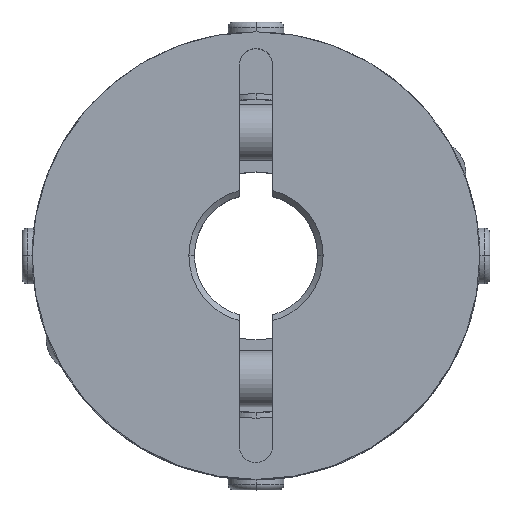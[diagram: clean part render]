
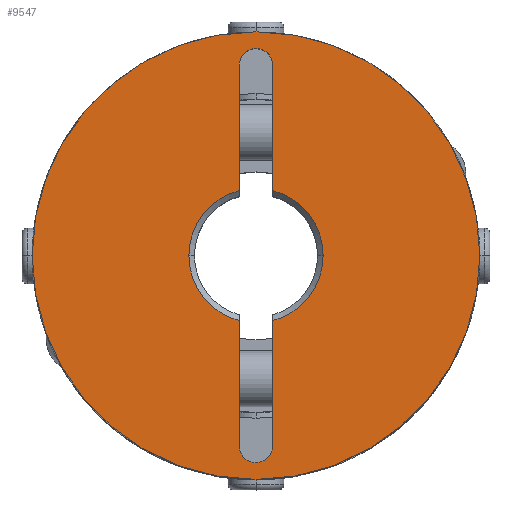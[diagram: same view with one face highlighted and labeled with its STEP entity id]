
A CAD part, top view. The second image highlights one B-rep face of the part: STEP entity #9547.
In plain terms, the highlighted planar face has unit normal (0, 0, 1).
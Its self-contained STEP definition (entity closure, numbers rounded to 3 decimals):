
#829=CARTESIAN_POINT('',(-20.0,0.,20.0));
#830=VERTEX_POINT('',#829);
#837=CARTESIAN_POINT('',(20.0,0.0,20.0));
#838=VERTEX_POINT('',#837);
#839=CARTESIAN_POINT('',(0.0,0.0,20.0));
#840=DIRECTION('',(0.0,0.0,-1.0));
#841=DIRECTION('',(1.0,0.0,0.0));
#842=AXIS2_PLACEMENT_3D('',#839,#840,#841);
#843=CIRCLE('',#842,20.0);
#844=EDGE_CURVE('',#830,#838,#843,.T.);
#1155=CARTESIAN_POINT('',(-1.061,18.061,20.0));
#1156=VERTEX_POINT('',#1155);
#1172=CARTESIAN_POINT('',(1.5,17.,20.0));
#1173=VERTEX_POINT('',#1172);
#1180=CARTESIAN_POINT('',(0.,17.,20.0));
#1181=DIRECTION('',(0.0,0.0,1.));
#1182=DIRECTION('',(0.707,0.707,0.0));
#1183=AXIS2_PLACEMENT_3D('',#1180,#1181,#1182);
#1184=CIRCLE('',#1183,1.5);
#1185=EDGE_CURVE('',#1173,#1156,#1184,.T.);
#1197=CARTESIAN_POINT('',(1.061,-18.061,20.0));
#1198=VERTEX_POINT('',#1197);
#1214=CARTESIAN_POINT('',(-1.5,-17.,20.0));
#1215=VERTEX_POINT('',#1214);
#1222=CARTESIAN_POINT('',(0.0,-17.,20.0));
#1223=DIRECTION('',(0.0,0.0,1.0));
#1224=DIRECTION('',(-0.707,-0.707,0.0));
#1225=AXIS2_PLACEMENT_3D('',#1222,#1223,#1224);
#1226=CIRCLE('',#1225,1.5);
#1227=EDGE_CURVE('',#1215,#1198,#1226,.T.);
#1237=CARTESIAN_POINT('',(-6.0,0.,20.0));
#1238=VERTEX_POINT('',#1237);
#1245=CARTESIAN_POINT('',(-1.5,-5.809,20.0));
#1246=VERTEX_POINT('',#1245);
#1247=CARTESIAN_POINT('',(0.0,0.0,20.0));
#1248=DIRECTION('',(0.0,0.0,1.0));
#1249=DIRECTION('',(-1.0,0.0,0.0));
#1250=AXIS2_PLACEMENT_3D('',#1247,#1248,#1249);
#1251=CIRCLE('',#1250,6.0);
#1252=EDGE_CURVE('',#1238,#1246,#1251,.T.);
#1276=CARTESIAN_POINT('',(6.0,0.,20.0));
#1277=VERTEX_POINT('',#1276);
#1284=CARTESIAN_POINT('',(1.5,5.809,20.0));
#1285=VERTEX_POINT('',#1284);
#1286=CARTESIAN_POINT('',(0.0,0.0,20.0));
#1287=DIRECTION('',(0.0,0.0,1.0));
#1288=DIRECTION('',(1.0,0.0,0.0));
#1289=AXIS2_PLACEMENT_3D('',#1286,#1287,#1288);
#1290=CIRCLE('',#1289,6.0);
#1291=EDGE_CURVE('',#1277,#1285,#1290,.T.);
#9352=CARTESIAN_POINT('',(-1.5,17.,20.0));
#9353=VERTEX_POINT('',#9352);
#9360=CARTESIAN_POINT('',(-1.5,5.809,20.0));
#9361=VERTEX_POINT('',#9360);
#9362=CARTESIAN_POINT('',(-1.5,5.809,20.0));
#9363=DIRECTION('',(0.0,1.0,0.0));
#9364=VECTOR('',#9363,11.191);
#9365=LINE('',#9362,#9364);
#9366=EDGE_CURVE('',#9361,#9353,#9365,.T.);
#9441=CARTESIAN_POINT('',(1.5,17.,20.0));
#9442=DIRECTION('',(0.0,-1.0,0.0));
#9443=VECTOR('',#9442,11.191);
#9444=LINE('',#9441,#9443);
#9445=EDGE_CURVE('',#1173,#1285,#9444,.T.);
#9463=CARTESIAN_POINT('',(1.5,-5.809,20.0));
#9464=VERTEX_POINT('',#9463);
#9478=CARTESIAN_POINT('',(0.0,0.0,20.0));
#9479=DIRECTION('',(0.0,0.0,1.0));
#9480=DIRECTION('',(1.0,0.0,0.0));
#9481=AXIS2_PLACEMENT_3D('',#9478,#9479,#9480);
#9482=CIRCLE('',#9481,6.0);
#9483=EDGE_CURVE('',#9464,#1277,#9482,.T.);
#9488=CARTESIAN_POINT('',(1.818,0.,20.0));
#9489=DIRECTION('',(0.0,0.0,1.0));
#9490=DIRECTION('',(1.0,0.0,0.0));
#9491=AXIS2_PLACEMENT_3D('',#9488,#9489,#9490);
#9492=PLANE('',#9491);
#9493=CARTESIAN_POINT('',(0.0,0.0,20.0));
#9494=DIRECTION('',(0.0,0.0,-1.0));
#9495=DIRECTION('',(1.0,0.0,0.0));
#9496=AXIS2_PLACEMENT_3D('',#9493,#9494,#9495);
#9497=CIRCLE('',#9496,20.0);
#9498=EDGE_CURVE('',#838,#830,#9497,.T.);
#9499=ORIENTED_EDGE('',*,*,#9498,.F.);
#9500=ORIENTED_EDGE('',*,*,#844,.F.);
#9501=EDGE_LOOP('',(#9499,#9500));
#9502=FACE_OUTER_BOUND('',#9501,.T.);
#9503=ORIENTED_EDGE('',*,*,#9483,.F.);
#9504=CARTESIAN_POINT('',(1.5,-17.,20.0));
#9505=VERTEX_POINT('',#9504);
#9506=CARTESIAN_POINT('',(1.5,-5.809,20.0));
#9507=DIRECTION('',(0.0,-1.0,0.0));
#9508=VECTOR('',#9507,11.191);
#9509=LINE('',#9506,#9508);
#9510=EDGE_CURVE('',#9464,#9505,#9509,.T.);
#9511=ORIENTED_EDGE('',*,*,#9510,.T.);
#9512=CARTESIAN_POINT('',(0.0,-17.,20.0));
#9513=DIRECTION('',(0.0,0.0,1.0));
#9514=DIRECTION('',(-0.707,-0.707,0.0));
#9515=AXIS2_PLACEMENT_3D('',#9512,#9513,#9514);
#9516=CIRCLE('',#9515,1.5);
#9517=EDGE_CURVE('',#1198,#9505,#9516,.T.);
#9518=ORIENTED_EDGE('',*,*,#9517,.F.);
#9519=ORIENTED_EDGE('',*,*,#1227,.F.);
#9520=CARTESIAN_POINT('',(-1.5,-17.,20.0));
#9521=DIRECTION('',(0.0,1.0,0.0));
#9522=VECTOR('',#9521,11.191);
#9523=LINE('',#9520,#9522);
#9524=EDGE_CURVE('',#1215,#1246,#9523,.T.);
#9525=ORIENTED_EDGE('',*,*,#9524,.T.);
#9526=ORIENTED_EDGE('',*,*,#1252,.F.);
#9527=CARTESIAN_POINT('',(0.0,0.0,20.0));
#9528=DIRECTION('',(0.0,0.0,1.0));
#9529=DIRECTION('',(-1.0,0.0,0.0));
#9530=AXIS2_PLACEMENT_3D('',#9527,#9528,#9529);
#9531=CIRCLE('',#9530,6.0);
#9532=EDGE_CURVE('',#9361,#1238,#9531,.T.);
#9533=ORIENTED_EDGE('',*,*,#9532,.F.);
#9534=ORIENTED_EDGE('',*,*,#9366,.T.);
#9535=CARTESIAN_POINT('',(0.,17.,20.0));
#9536=DIRECTION('',(0.0,0.0,1.));
#9537=DIRECTION('',(0.707,0.707,0.0));
#9538=AXIS2_PLACEMENT_3D('',#9535,#9536,#9537);
#9539=CIRCLE('',#9538,1.5);
#9540=EDGE_CURVE('',#1156,#9353,#9539,.T.);
#9541=ORIENTED_EDGE('',*,*,#9540,.F.);
#9542=ORIENTED_EDGE('',*,*,#1185,.F.);
#9543=ORIENTED_EDGE('',*,*,#9445,.T.);
#9544=ORIENTED_EDGE('',*,*,#1291,.F.);
#9545=EDGE_LOOP('',(#9503,#9511,#9518,#9519,#9525,#9526,#9533,#9534,#9541,#9542,#9543,#9544));
#9546=FACE_BOUND('',#9545,.T.);
#9547=ADVANCED_FACE('',(#9502,#9546),#9492,.T.);
